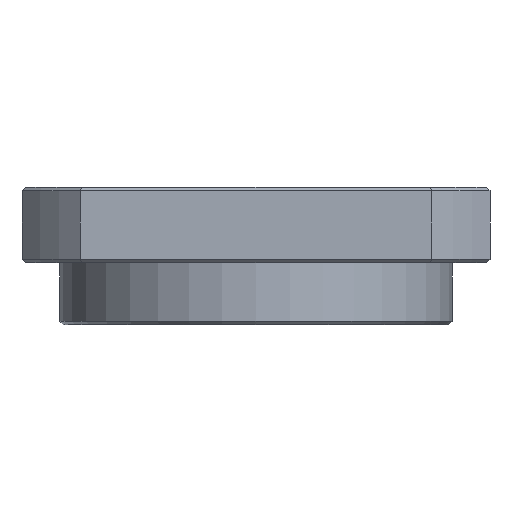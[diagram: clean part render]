
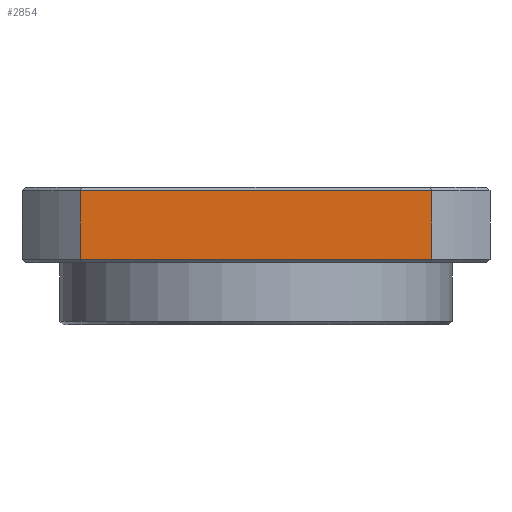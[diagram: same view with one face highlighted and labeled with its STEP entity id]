
A CAD part, front view. The second image highlights one B-rep face of the part: STEP entity #2854.
In plain terms, the highlighted planar face has unit normal (0, -1, 0).
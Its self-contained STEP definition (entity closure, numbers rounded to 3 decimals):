
#325 = VERTEX_POINT ( 'NONE', #816 ) ;
#554 = LINE ( 'NONE', #5535, #4480 ) ;
#738 = CARTESIAN_POINT ( 'NONE',  ( -25.5, -34., -34.404 ) ) ;
#786 = VERTEX_POINT ( 'NONE', #1190 ) ;
#816 = CARTESIAN_POINT ( 'NONE',  ( 25.5, -34., -10.5 ) ) ;
#850 = VERTEX_POINT ( 'NONE', #3212 ) ;
#875 = DIRECTION ( 'NONE',  ( 0., 0., -1. ) ) ;
#1069 = EDGE_CURVE ( 'NONE', #2648, #325, #4809, .T. ) ;
#1108 = AXIS2_PLACEMENT_3D ( 'NONE', #4986, #1187, #3709 ) ;
#1187 = DIRECTION ( 'NONE',  ( 0., -1., 0. ) ) ;
#1190 = CARTESIAN_POINT ( 'NONE',  ( 25.5, -34., -0.5 ) ) ;
#1441 = ORIENTED_EDGE ( 'NONE', *, *, #4916, .T. ) ;
#1509 = EDGE_LOOP ( 'NONE', ( #1441, #5728, #5930, #2984 ) ) ;
#2238 = VECTOR ( 'NONE', #2575, 1000. ) ;
#2292 = EDGE_CURVE ( 'NONE', #786, #850, #554, .T. ) ;
#2575 = DIRECTION ( 'NONE',  ( 1., 0., 0. ) ) ;
#2648 = VERTEX_POINT ( 'NONE', #5875 ) ;
#2854 = ADVANCED_FACE ( 'NONE', ( #3108 ), #4539, .T. ) ;
#2984 = ORIENTED_EDGE ( 'NONE', *, *, #2292, .T. ) ;
#3108 = FACE_OUTER_BOUND ( 'NONE', #1509, .T. ) ;
#3212 = CARTESIAN_POINT ( 'NONE',  ( -25.5, -34., -0.5 ) ) ;
#3324 = EDGE_CURVE ( 'NONE', #325, #786, #3997, .T. ) ;
#3338 = CARTESIAN_POINT ( 'NONE',  ( -34., -34., -10.5 ) ) ;
#3709 = DIRECTION ( 'NONE',  ( 0., 0., -1. ) ) ;
#3997 = LINE ( 'NONE', #4649, #4274 ) ;
#4274 = VECTOR ( 'NONE', #4297, 1000. ) ;
#4297 = DIRECTION ( 'NONE',  ( 0., 0., 1. ) ) ;
#4480 = VECTOR ( 'NONE', #4792, 1000. ) ;
#4539 = PLANE ( 'NONE',  #1108 ) ;
#4649 = CARTESIAN_POINT ( 'NONE',  ( 25.5, -34., -34.404 ) ) ;
#4792 = DIRECTION ( 'NONE',  ( -1., 0., 0. ) ) ;
#4809 = LINE ( 'NONE', #3338, #2238 ) ;
#4845 = LINE ( 'NONE', #738, #5163 ) ;
#4916 = EDGE_CURVE ( 'NONE', #850, #2648, #4845, .T. ) ;
#4986 = CARTESIAN_POINT ( 'NONE',  ( -34., -34., -20.001 ) ) ;
#5163 = VECTOR ( 'NONE', #875, 1000. ) ;
#5535 = CARTESIAN_POINT ( 'NONE',  ( -34., -34., -0.5 ) ) ;
#5728 = ORIENTED_EDGE ( 'NONE', *, *, #1069, .T. ) ;
#5875 = CARTESIAN_POINT ( 'NONE',  ( -25.5, -34., -10.5 ) ) ;
#5930 = ORIENTED_EDGE ( 'NONE', *, *, #3324, .T. ) ;
